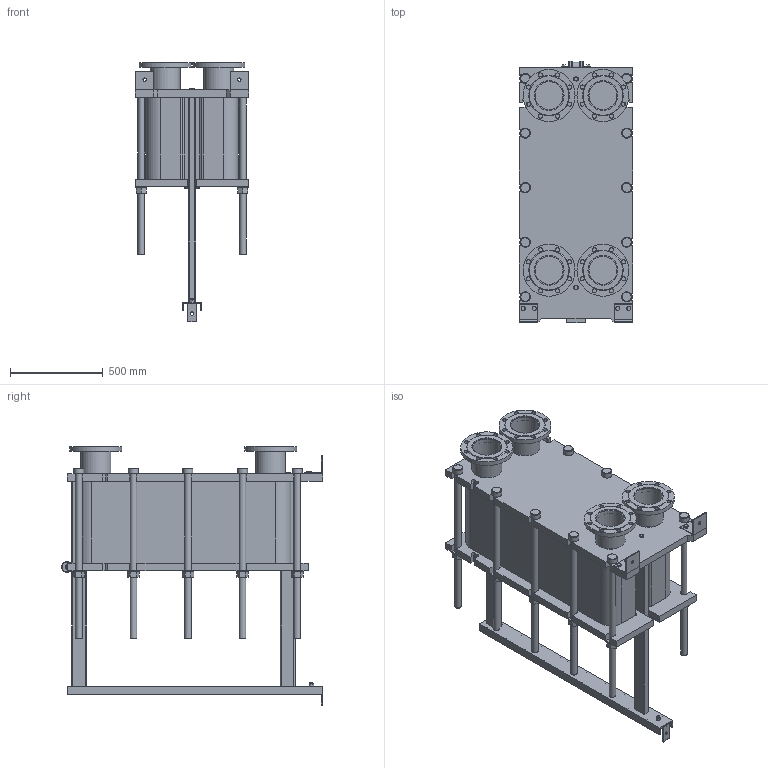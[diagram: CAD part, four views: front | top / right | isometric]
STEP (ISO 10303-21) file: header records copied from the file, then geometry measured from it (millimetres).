
FILE_DESCRIPTION(/* description */ (''),/* implementation_level */ '2;1');
FILE_NAME(/* name */ 'C:\Users\zhuro\Desktop\ENCO\TO\ЭН-041\ЭН-0,5-041-128-1.stp',/* time_stamp */ '2022-06-06T11:00:08+03:00',/* author */ ('zhuro'),/* organization */ (''),/* preprocessor_version */ 'ST-DEVELOPER v18.1',/* originating_system */ 'Autodesk Inventor 2022',/* authorisation */ '');
FILE_SCHEMA (('AUTOMOTIVE_DESIGN { 1 0 10303 214 3 1 1 }'));
Length unit declared in the file: millimetre
Products named in the file (1): ЭН-0,5-041-128-1
Bounding box: 610 x 1406.5 x 1400 mm (x, y, z)
Volume: 330813085.9 mm3; surface area: 9641888.2 mm2
Topology: 52 solids, 52 shells, 711 faces, 1696 edges, 1094 vertices
Faces by surface type: plane 487, cylinder 177, cone 41, torus 6
Full cylindrical faces by diameter (mm): 8 x4, 10 x2, 16 x8, 18 x3, 22 x32, 36 x24, 50 x1, 54 x10, 60 x12, 151 x4, 161 x8, 280 x4
Entity records: 22667 total; most frequent: CARTESIAN_POINT 5230, DIRECTION 3644, ORIENTED_EDGE 3392, EDGE_CURVE 1696, AXIS2_PLACEMENT_3D 1272, LINE 1100, VECTOR 1100, VERTEX_POINT 1094
